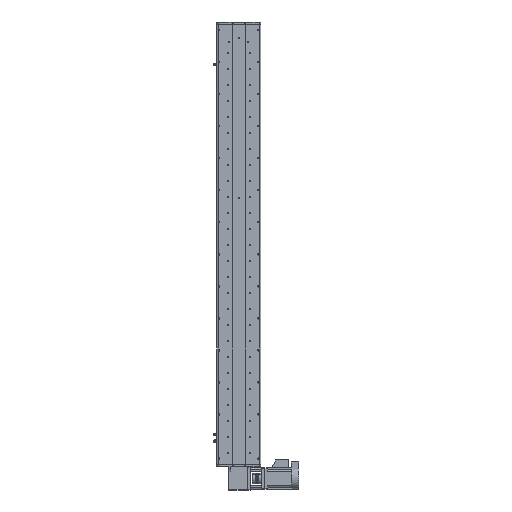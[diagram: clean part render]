
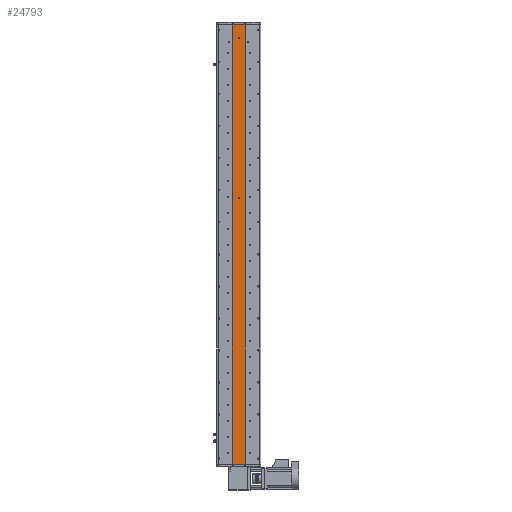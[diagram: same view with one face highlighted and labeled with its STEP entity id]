
A CAD part, front view. The second image highlights one B-rep face of the part: STEP entity #24793.
In plain terms, the highlighted planar face has unit normal (0, -1, 0).
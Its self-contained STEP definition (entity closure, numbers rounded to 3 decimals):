
#633 = ORIENTED_EDGE ( 'NONE', *, *, #38810, .F. ) ;
#784 = EDGE_CURVE ( 'NONE', #20387, #38400, #2301, .T. ) ;
#1590 = CARTESIAN_POINT ( 'NONE',  ( 0., 1., 173.5 ) ) ;
#2301 = CIRCLE ( 'NONE', #33172, 3. ) ;
#2316 = DIRECTION ( 'NONE',  ( 1., 0., 0. ) ) ;
#2621 = EDGE_LOOP ( 'NONE', ( #22043, #8282 ) ) ;
#3366 = CARTESIAN_POINT ( 'NONE',  ( 25., 1., 823.5 ) ) ;
#3460 = EDGE_CURVE ( 'NONE', #43696, #48244, #20858, .T. ) ;
#5013 = VERTEX_POINT ( 'NONE', #13938 ) ;
#5588 = DIRECTION ( 'NONE',  ( 0., 0., -1. ) ) ;
#5655 = EDGE_CURVE ( 'NONE', #10875, #43696, #38131, .T. ) ;
#6046 = CARTESIAN_POINT ( 'NONE',  ( 0., 1., 773.5 ) ) ;
#7450 = CIRCLE ( 'NONE', #17703, 3. ) ;
#7527 = ORIENTED_EDGE ( 'NONE', *, *, #3460, .T. ) ;
#7721 = DIRECTION ( 'NONE',  ( 0., 0., -1. ) ) ;
#8282 = ORIENTED_EDGE ( 'NONE', *, *, #18266, .F. ) ;
#9115 = DIRECTION ( 'NONE',  ( 0., -1., 0. ) ) ;
#9371 = AXIS2_PLACEMENT_3D ( 'NONE', #14518, #42649, #18567 ) ;
#9501 = CARTESIAN_POINT ( 'NONE',  ( 25., 1., 823.5 ) ) ;
#10098 = DIRECTION ( 'NONE',  ( 0., 0., -1. ) ) ;
#10301 = CIRCLE ( 'NONE', #26395, 3. ) ;
#10381 = CARTESIAN_POINT ( 'NONE',  ( 25., 1., 823.5 ) ) ;
#10666 = CARTESIAN_POINT ( 'NONE',  ( 0., 1., 776.5 ) ) ;
#10875 = VERTEX_POINT ( 'NONE', #23738 ) ;
#10957 = LINE ( 'NONE', #10381, #31036 ) ;
#11144 = DIRECTION ( 'NONE',  ( 0., 0., -1. ) ) ;
#12125 = CARTESIAN_POINT ( 'NONE',  ( 25., 1., 823.5 ) ) ;
#12479 = AXIS2_PLACEMENT_3D ( 'NONE', #9501, #45687, #21636 ) ;
#13067 = FACE_BOUND ( 'NONE', #47989, .T. ) ;
#13474 = CIRCLE ( 'NONE', #9371, 3. ) ;
#13938 = CARTESIAN_POINT ( 'NONE',  ( 0., 1., 176.5 ) ) ;
#14518 = CARTESIAN_POINT ( 'NONE',  ( 0., 1., 773.5 ) ) ;
#17703 = AXIS2_PLACEMENT_3D ( 'NONE', #1590, #29679, #5588 ) ;
#18266 = EDGE_CURVE ( 'NONE', #5013, #22115, #7450, .T. ) ;
#18567 = DIRECTION ( 'NONE',  ( 0., 0., -1. ) ) ;
#20387 = VERTEX_POINT ( 'NONE', #10666 ) ;
#20858 = LINE ( 'NONE', #44065, #28974 ) ;
#21131 = CARTESIAN_POINT ( 'NONE',  ( 0., 1., 770.5 ) ) ;
#21492 = EDGE_CURVE ( 'NONE', #10875, #44162, #10957, .T. ) ;
#21636 = DIRECTION ( 'NONE',  ( 0., 0., 1. ) ) ;
#22043 = ORIENTED_EDGE ( 'NONE', *, *, #51456, .F. ) ;
#22115 = VERTEX_POINT ( 'NONE', #38459 ) ;
#22448 = FACE_BOUND ( 'NONE', #2621, .T. ) ;
#23637 = CARTESIAN_POINT ( 'NONE',  ( 25., 1., -823.5 ) ) ;
#23738 = CARTESIAN_POINT ( 'NONE',  ( -25., 1., 823.5 ) ) ;
#24406 = VECTOR ( 'NONE', #7721, 1000. ) ;
#24793 = ADVANCED_FACE ( 'NONE', ( #22448, #13067, #43879 ), #41677, .F. ) ;
#25671 = LINE ( 'NONE', #12125, #24406 ) ;
#26255 = ORIENTED_EDGE ( 'NONE', *, *, #5655, .T. ) ;
#26395 = AXIS2_PLACEMENT_3D ( 'NONE', #33159, #9115, #37243 ) ;
#28974 = VECTOR ( 'NONE', #48055, 1000. ) ;
#29057 = ORIENTED_EDGE ( 'NONE', *, *, #31460, .F. ) ;
#29679 = DIRECTION ( 'NONE',  ( 0., -1., 0. ) ) ;
#31036 = VECTOR ( 'NONE', #2316, 1000. ) ;
#31460 = EDGE_CURVE ( 'NONE', #44162, #48244, #25671, .T. ) ;
#32469 = ORIENTED_EDGE ( 'NONE', *, *, #21492, .F. ) ;
#33159 = CARTESIAN_POINT ( 'NONE',  ( 0., 1., 173.5 ) ) ;
#33172 = AXIS2_PLACEMENT_3D ( 'NONE', #6046, #34165, #10098 ) ;
#34165 = DIRECTION ( 'NONE',  ( 0., -1., 0. ) ) ;
#36561 = ORIENTED_EDGE ( 'NONE', *, *, #784, .F. ) ;
#36979 = EDGE_LOOP ( 'NONE', ( #7527, #29057, #32469, #26255 ) ) ;
#37243 = DIRECTION ( 'NONE',  ( 0., 0., -1. ) ) ;
#38131 = LINE ( 'NONE', #39280, #48786 ) ;
#38400 = VERTEX_POINT ( 'NONE', #21131 ) ;
#38459 = CARTESIAN_POINT ( 'NONE',  ( 0., 1., 170.5 ) ) ;
#38810 = EDGE_CURVE ( 'NONE', #38400, #20387, #13474, .T. ) ;
#39280 = CARTESIAN_POINT ( 'NONE',  ( -25., 1., 823.5 ) ) ;
#41677 = PLANE ( 'NONE',  #12479 ) ;
#42649 = DIRECTION ( 'NONE',  ( 0., -1., 0. ) ) ;
#43696 = VERTEX_POINT ( 'NONE', #44045 ) ;
#43879 = FACE_OUTER_BOUND ( 'NONE', #36979, .T. ) ;
#44045 = CARTESIAN_POINT ( 'NONE',  ( -25., 1., -823.5 ) ) ;
#44065 = CARTESIAN_POINT ( 'NONE',  ( 25., 1., -823.5 ) ) ;
#44162 = VERTEX_POINT ( 'NONE', #3366 ) ;
#45687 = DIRECTION ( 'NONE',  ( 0., 1., 0. ) ) ;
#47989 = EDGE_LOOP ( 'NONE', ( #633, #36561 ) ) ;
#48055 = DIRECTION ( 'NONE',  ( 1., 0., 0. ) ) ;
#48244 = VERTEX_POINT ( 'NONE', #23637 ) ;
#48786 = VECTOR ( 'NONE', #11144, 1000. ) ;
#51456 = EDGE_CURVE ( 'NONE', #22115, #5013, #10301, .T. ) ;
